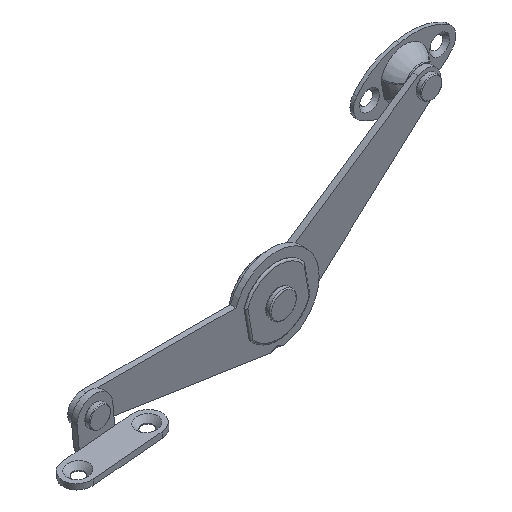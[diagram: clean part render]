
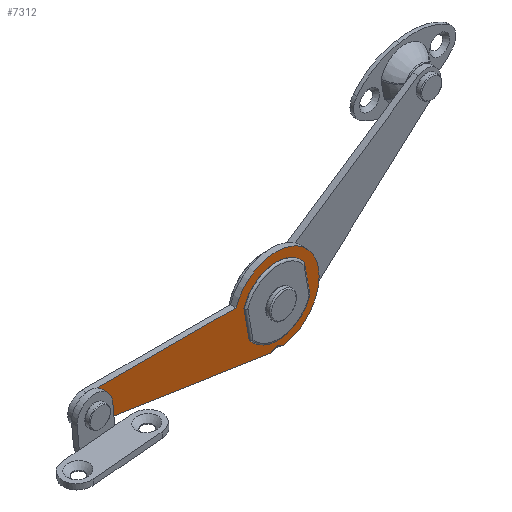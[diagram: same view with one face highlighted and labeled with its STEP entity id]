
A CAD part, isometric view. The second image highlights one B-rep face of the part: STEP entity #7312.
In plain terms, the highlighted planar face has unit normal (0, -1, 0).
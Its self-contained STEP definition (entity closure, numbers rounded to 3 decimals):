
#6844=CARTESIAN_POINT('',(7.634,0.0,5.654));
#6845=VERTEX_POINT('',#6844);
#6852=CARTESIAN_POINT('',(-9.108,0.0,2.702));
#6853=VERTEX_POINT('',#6852);
#6854=CARTESIAN_POINT('',(0.,0.0,0.0));
#6855=DIRECTION('',(0.0,-1.0,0.0));
#6856=DIRECTION('',(0.0,0.0,-1.0));
#6857=AXIS2_PLACEMENT_3D('',#6854,#6855,#6856);
#6858=CIRCLE('',#6857,9.5);
#6859=EDGE_CURVE('',#6845,#6853,#6858,.T.);
#6918=CARTESIAN_POINT('',(-53.,0.0,-1.55));
#6919=VERTEX_POINT('',#6918);
#6920=CARTESIAN_POINT('',(-53.,0.0,0.0));
#6921=DIRECTION('',(0.0,1.0,0.0));
#6922=DIRECTION('',(0.0,0.0,1.0));
#6923=AXIS2_PLACEMENT_3D('',#6920,#6921,#6922);
#6924=CIRCLE('',#6923,1.55);
#6925=EDGE_CURVE('',#6919,#6919,#6924,.T.);
#7006=CARTESIAN_POINT('',(-11.314,0.0,4.0));
#7007=VERTEX_POINT('',#7006);
#7014=CARTESIAN_POINT('',(2.084,0.0,-11.818));
#7015=VERTEX_POINT('',#7014);
#7016=CARTESIAN_POINT('',(0.0,0.0,0.0));
#7017=DIRECTION('',(0.0,1.0,0.0));
#7018=DIRECTION('',(0.0,0.0,1.0));
#7019=AXIS2_PLACEMENT_3D('',#7016,#7017,#7018);
#7020=CIRCLE('',#7019,12.);
#7021=EDGE_CURVE('',#7007,#7015,#7020,.T.);
#7086=CARTESIAN_POINT('',(-1.57,0.0,-11.897));
#7087=VERTEX_POINT('',#7086);
#7146=CARTESIAN_POINT('',(-1.811,0.0,-11.863));
#7147=VERTEX_POINT('',#7146);
#7148=CARTESIAN_POINT('',(0.0,0.0,0.0));
#7149=DIRECTION('',(0.0,1.0,0.0));
#7150=DIRECTION('',(0.0,0.0,1.0));
#7151=AXIS2_PLACEMENT_3D('',#7148,#7149,#7150);
#7152=CIRCLE('',#7151,12.);
#7153=EDGE_CURVE('',#7087,#7147,#7152,.T.);
#7196=CARTESIAN_POINT('',(0.0,0.0,0.0));
#7197=DIRECTION('',(0.0,1.0,0.0));
#7198=DIRECTION('',(0.0,0.0,1.0));
#7199=AXIS2_PLACEMENT_3D('',#7196,#7197,#7198);
#7200=PLANE('',#7199);
#7201=ORIENTED_EDGE('',*,*,#7153,.F.);
#7202=CARTESIAN_POINT('',(-1.57,0.0,-11.897));
#7203=CARTESIAN_POINT('',(-1.53,0.0,-11.872));
#7204=CARTESIAN_POINT('',(-1.438,0.0,-11.814));
#7205=CARTESIAN_POINT('',(-1.277,0.0,-11.71));
#7206=CARTESIAN_POINT('',(-1.183,0.0,-11.649));
#7207=CARTESIAN_POINT('',(-1.133,0.0,-11.617));
#7208=CARTESIAN_POINT('',(-1.111,0.0,-11.602));
#7209=CARTESIAN_POINT('',(-1.095,0.0,-11.592));
#7210=CARTESIAN_POINT('',(-1.086,0.0,-11.586));
#7211=CARTESIAN_POINT('',(-0.983,0.0,-11.519));
#7212=CARTESIAN_POINT('',(-0.852,0.0,-11.436));
#7213=CARTESIAN_POINT('',(-0.727,0.0,-11.359));
#7214=CARTESIAN_POINT('',(-0.671,0.0,-11.326));
#7215=CARTESIAN_POINT('',(-0.644,0.0,-11.31));
#7216=CARTESIAN_POINT('',(-0.633,0.0,-11.304));
#7217=CARTESIAN_POINT('',(-0.626,0.0,-11.3));
#7218=CARTESIAN_POINT('',(-0.624,0.0,-11.298));
#7219=CARTESIAN_POINT('',(-0.538,0.0,-11.249));
#7220=CARTESIAN_POINT('',(-0.422,0.0,-11.187));
#7221=CARTESIAN_POINT('',(-0.299,0.0,-11.131));
#7222=CARTESIAN_POINT('',(-0.24,0.0,-11.106));
#7223=CARTESIAN_POINT('',(-0.216,0.0,-11.097));
#7224=CARTESIAN_POINT('',(-0.2,0.0,-11.09));
#7225=CARTESIAN_POINT('',(-0.193,0.0,-11.088));
#7226=CARTESIAN_POINT('',(-0.034,0.0,-11.029));
#7227=CARTESIAN_POINT('',(0.107,0.0,-11.));
#7228=CARTESIAN_POINT('',(0.304,0.0,-10.996));
#7229=CARTESIAN_POINT('',(0.406,0.0,-11.003));
#7230=CARTESIAN_POINT('',(0.533,0.0,-11.029));
#7231=CARTESIAN_POINT('',(0.598,0.0,-11.046));
#7232=CARTESIAN_POINT('',(0.626,0.0,-11.054));
#7233=CARTESIAN_POINT('',(0.645,0.0,-11.06));
#7234=CARTESIAN_POINT('',(0.656,0.0,-11.064));
#7235=CARTESIAN_POINT('',(0.728,0.0,-11.087));
#7236=CARTESIAN_POINT('',(0.832,0.0,-11.126));
#7237=CARTESIAN_POINT('',(0.966,0.0,-11.187));
#7238=CARTESIAN_POINT('',(1.036,0.0,-11.221));
#7239=CARTESIAN_POINT('',(1.072,0.0,-11.239));
#7240=CARTESIAN_POINT('',(1.087,0.0,-11.247));
#7241=CARTESIAN_POINT('',(1.098,0.0,-11.253));
#7242=CARTESIAN_POINT('',(1.104,0.0,-11.256));
#7243=CARTESIAN_POINT('',(1.166,0.0,-11.288));
#7244=CARTESIAN_POINT('',(1.268,0.0,-11.344));
#7245=CARTESIAN_POINT('',(1.415,0.0,-11.428));
#7246=CARTESIAN_POINT('',(1.496,0.0,-11.475));
#7247=CARTESIAN_POINT('',(1.538,0.0,-11.499));
#7248=CARTESIAN_POINT('',(1.556,0.0,-11.51));
#7249=CARTESIAN_POINT('',(1.569,0.0,-11.517));
#7250=CARTESIAN_POINT('',(1.573,0.0,-11.52));
#7251=CARTESIAN_POINT('',(1.834,0.0,-11.674));
#7252=CARTESIAN_POINT('',(2.002,0.0,-11.772));
#7253=CARTESIAN_POINT('',(2.084,0.0,-11.818));
#7254=B_SPLINE_CURVE_WITH_KNOTS('',3,(#7202,#7203,#7204,#7205,#7206,#7207,#7208,#7209,#7210,#7211,#7212,#7213,#7214,#7215,#7216,#7217,#7218,#7219,#7220,#7221,#7222,#7223,#7224,#7225,#7226,#7227,#7228,#7229,#7230,#7231,#7232,#7233,#7234,#7235,#7236,#7237,#7238,#7239,#7240,#7241,#7242,#7243,#7244,#7245,#7246,#7247,#7248,#7249,#7250,#7251,#7252,#7253),.UNSPECIFIED.,.F.,.U.,(4,1,1,1,1,2,2,1,1,1,1,2,2,1,1,1,2,2,2,1,1,1,2,2,1,1,1,1,2,2,1,1,1,1,2,2,4),(0.0,0.063,0.094,0.109,0.117,0.121,0.125,0.188,0.219,0.234,0.242,0.246,0.25,0.313,0.344,0.359,0.367,0.375,0.5,0.563,0.594,0.609,0.617,0.625,0.688,0.719,0.734,0.742,0.746,0.75,0.813,0.844,0.859,0.867,0.871,0.875,1.0),.UNSPECIFIED.);
#7255=EDGE_CURVE('',#7087,#7015,#7254,.T.);
#7256=ORIENTED_EDGE('',*,*,#7255,.T.);
#7257=ORIENTED_EDGE('',*,*,#7021,.F.);
#7258=CARTESIAN_POINT('',(-53.,0.0,4.0));
#7259=VERTEX_POINT('',#7258);
#7260=CARTESIAN_POINT('',(-53.,0.0,4.0));
#7261=DIRECTION('',(1.0,0.0,0.0));
#7262=VECTOR('',#7261,41.686);
#7263=LINE('',#7260,#7262);
#7264=EDGE_CURVE('',#7259,#7007,#7263,.T.);
#7265=ORIENTED_EDGE('',*,*,#7264,.F.);
#7266=CARTESIAN_POINT('',(-53.604,0.0,-3.954));
#7267=VERTEX_POINT('',#7266);
#7268=CARTESIAN_POINT('',(-53.,0.0,0.0));
#7269=DIRECTION('',(0.0,1.0,0.0));
#7270=DIRECTION('',(0.0,0.0,1.0));
#7271=AXIS2_PLACEMENT_3D('',#7268,#7269,#7270);
#7272=CIRCLE('',#7271,4.0);
#7273=EDGE_CURVE('',#7267,#7259,#7272,.T.);
#7274=ORIENTED_EDGE('',*,*,#7273,.F.);
#7275=CARTESIAN_POINT('',(-1.811,0.0,-11.863));
#7276=DIRECTION('',(-0.989,0.0,0.151));
#7277=VECTOR('',#7276,52.393);
#7278=LINE('',#7275,#7277);
#7279=EDGE_CURVE('',#7147,#7267,#7278,.T.);
#7280=ORIENTED_EDGE('',*,*,#7279,.F.);
#7281=EDGE_LOOP('',(#7201,#7256,#7257,#7265,#7274,#7280));
#7282=FACE_OUTER_BOUND('',#7281,.T.);
#7283=ORIENTED_EDGE('',*,*,#6925,.T.);
#7284=EDGE_LOOP('',(#7283));
#7285=FACE_BOUND('',#7284,.T.);
#7286=ORIENTED_EDGE('',*,*,#6859,.F.);
#7287=CARTESIAN_POINT('',(9.108,0.0,-2.702));
#7288=VERTEX_POINT('',#7287);
#7289=CARTESIAN_POINT('',(9.108,0.0,-2.702));
#7290=DIRECTION('',(-0.174,0.0,0.985));
#7291=VECTOR('',#7290,8.485);
#7292=LINE('',#7289,#7291);
#7293=EDGE_CURVE('',#7288,#6845,#7292,.T.);
#7294=ORIENTED_EDGE('',*,*,#7293,.F.);
#7295=CARTESIAN_POINT('',(-7.634,0.0,-5.654));
#7296=VERTEX_POINT('',#7295);
#7297=CARTESIAN_POINT('',(0.,0.0,0.0));
#7298=DIRECTION('',(0.0,-1.0,0.0));
#7299=DIRECTION('',(0.0,0.0,-1.0));
#7300=AXIS2_PLACEMENT_3D('',#7297,#7298,#7299);
#7301=CIRCLE('',#7300,9.5);
#7302=EDGE_CURVE('',#7296,#7288,#7301,.T.);
#7303=ORIENTED_EDGE('',*,*,#7302,.F.);
#7304=CARTESIAN_POINT('',(-9.108,0.0,2.702));
#7305=DIRECTION('',(0.174,0.0,-0.985));
#7306=VECTOR('',#7305,8.485);
#7307=LINE('',#7304,#7306);
#7308=EDGE_CURVE('',#6853,#7296,#7307,.T.);
#7309=ORIENTED_EDGE('',*,*,#7308,.F.);
#7310=EDGE_LOOP('',(#7286,#7294,#7303,#7309));
#7311=FACE_BOUND('',#7310,.T.);
#7312=ADVANCED_FACE('',(#7282,#7285,#7311),#7200,.F.);
